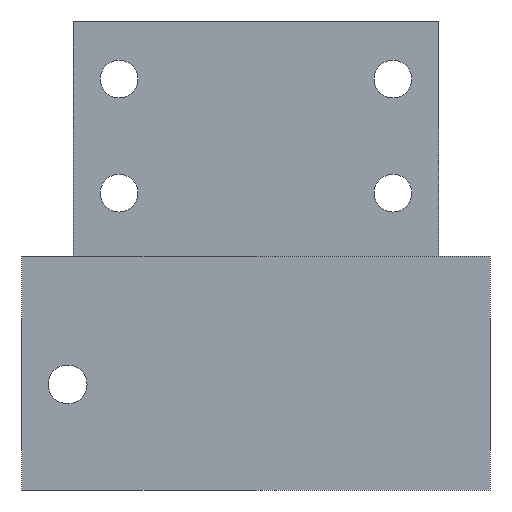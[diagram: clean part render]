
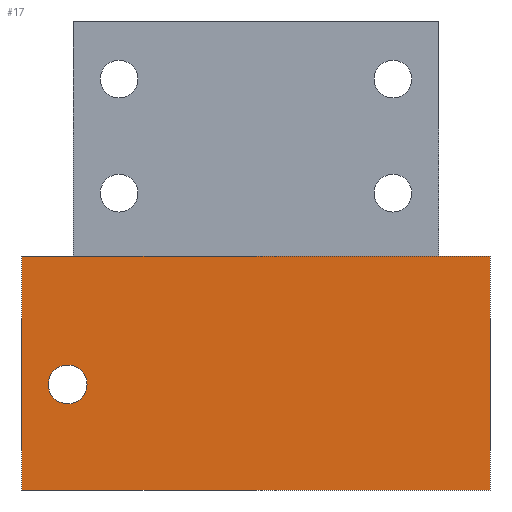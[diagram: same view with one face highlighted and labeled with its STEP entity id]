
A CAD part, left-side view. The second image highlights one B-rep face of the part: STEP entity #17.
In plain terms, the highlighted planar face has unit normal (-1, 0, 0).
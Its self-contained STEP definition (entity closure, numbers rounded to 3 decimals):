
#17 = ADVANCED_FACE('',(#18,#137),#32,.F.);
#18 = FACE_BOUND('',#19,.F.);
#19 = EDGE_LOOP('',(#20,#55,#83,#111));
#20 = ORIENTED_EDGE('',*,*,#21,.F.);
#21 = EDGE_CURVE('',#22,#24,#26,.T.);
#22 = VERTEX_POINT('',#23);
#23 = CARTESIAN_POINT('',(-24.,-20.5,-21.));
#24 = VERTEX_POINT('',#25);
#25 = CARTESIAN_POINT('',(-24.,-20.5,-0.5));
#26 = SURFACE_CURVE('',#27,(#31,#43),.PCURVE_S1.);
#27 = LINE('',#28,#29);
#28 = CARTESIAN_POINT('',(-24.,-20.5,-21.));
#29 = VECTOR('',#30,1.);
#30 = DIRECTION('',(0.,0.,1.));
#31 = PCURVE('',#32,#37);
#32 = PLANE('',#33);
#33 = AXIS2_PLACEMENT_3D('',#34,#35,#36);
#34 = CARTESIAN_POINT('',(-24.,-20.5,-21.));
#35 = DIRECTION('',(1.,0.,0.));
#36 = DIRECTION('',(0.,0.,1.));
#37 = DEFINITIONAL_REPRESENTATION('',(#38),#42);
#38 = LINE('',#39,#40);
#39 = CARTESIAN_POINT('',(0.,0.));
#40 = VECTOR('',#41,1.);
#41 = DIRECTION('',(1.,0.));
#42 = ( GEOMETRIC_REPRESENTATION_CONTEXT(2) 
PARAMETRIC_REPRESENTATION_CONTEXT() REPRESENTATION_CONTEXT('2D SPACE',''
  ) );
#43 = PCURVE('',#44,#49);
#44 = PLANE('',#45);
#45 = AXIS2_PLACEMENT_3D('',#46,#47,#48);
#46 = CARTESIAN_POINT('',(-24.,-20.5,-21.));
#47 = DIRECTION('',(0.,1.,0.));
#48 = DIRECTION('',(0.,0.,1.));
#49 = DEFINITIONAL_REPRESENTATION('',(#50),#54);
#50 = LINE('',#51,#52);
#51 = CARTESIAN_POINT('',(0.,0.));
#52 = VECTOR('',#53,1.);
#53 = DIRECTION('',(1.,0.));
#54 = ( GEOMETRIC_REPRESENTATION_CONTEXT(2) 
PARAMETRIC_REPRESENTATION_CONTEXT() REPRESENTATION_CONTEXT('2D SPACE',''
  ) );
#55 = ORIENTED_EDGE('',*,*,#56,.T.);
#56 = EDGE_CURVE('',#22,#57,#59,.T.);
#57 = VERTEX_POINT('',#58);
#58 = CARTESIAN_POINT('',(-24.,20.5,-21.));
#59 = SURFACE_CURVE('',#60,(#64,#71),.PCURVE_S1.);
#60 = LINE('',#61,#62);
#61 = CARTESIAN_POINT('',(-24.,-20.5,-21.));
#62 = VECTOR('',#63,1.);
#63 = DIRECTION('',(0.,1.,0.));
#64 = PCURVE('',#32,#65);
#65 = DEFINITIONAL_REPRESENTATION('',(#66),#70);
#66 = LINE('',#67,#68);
#67 = CARTESIAN_POINT('',(0.,0.));
#68 = VECTOR('',#69,1.);
#69 = DIRECTION('',(0.,-1.));
#70 = ( GEOMETRIC_REPRESENTATION_CONTEXT(2) 
PARAMETRIC_REPRESENTATION_CONTEXT() REPRESENTATION_CONTEXT('2D SPACE',''
  ) );
#71 = PCURVE('',#72,#77);
#72 = PLANE('',#73);
#73 = AXIS2_PLACEMENT_3D('',#74,#75,#76);
#74 = CARTESIAN_POINT('',(-24.,-20.5,-21.));
#75 = DIRECTION('',(0.,0.,1.));
#76 = DIRECTION('',(1.,0.,0.));
#77 = DEFINITIONAL_REPRESENTATION('',(#78),#82);
#78 = LINE('',#79,#80);
#79 = CARTESIAN_POINT('',(0.,0.));
#80 = VECTOR('',#81,1.);
#81 = DIRECTION('',(0.,1.));
#82 = ( GEOMETRIC_REPRESENTATION_CONTEXT(2) 
PARAMETRIC_REPRESENTATION_CONTEXT() REPRESENTATION_CONTEXT('2D SPACE',''
  ) );
#83 = ORIENTED_EDGE('',*,*,#84,.T.);
#84 = EDGE_CURVE('',#57,#85,#87,.T.);
#85 = VERTEX_POINT('',#86);
#86 = CARTESIAN_POINT('',(-24.,20.5,-0.5));
#87 = SURFACE_CURVE('',#88,(#92,#99),.PCURVE_S1.);
#88 = LINE('',#89,#90);
#89 = CARTESIAN_POINT('',(-24.,20.5,-21.));
#90 = VECTOR('',#91,1.);
#91 = DIRECTION('',(0.,0.,1.));
#92 = PCURVE('',#32,#93);
#93 = DEFINITIONAL_REPRESENTATION('',(#94),#98);
#94 = LINE('',#95,#96);
#95 = CARTESIAN_POINT('',(0.,-41.));
#96 = VECTOR('',#97,1.);
#97 = DIRECTION('',(1.,0.));
#98 = ( GEOMETRIC_REPRESENTATION_CONTEXT(2) 
PARAMETRIC_REPRESENTATION_CONTEXT() REPRESENTATION_CONTEXT('2D SPACE',''
  ) );
#99 = PCURVE('',#100,#105);
#100 = PLANE('',#101);
#101 = AXIS2_PLACEMENT_3D('',#102,#103,#104);
#102 = CARTESIAN_POINT('',(-24.,20.5,-21.));
#103 = DIRECTION('',(0.,1.,0.));
#104 = DIRECTION('',(0.,0.,1.));
#105 = DEFINITIONAL_REPRESENTATION('',(#106),#110);
#106 = LINE('',#107,#108);
#107 = CARTESIAN_POINT('',(0.,0.));
#108 = VECTOR('',#109,1.);
#109 = DIRECTION('',(1.,0.));
#110 = ( GEOMETRIC_REPRESENTATION_CONTEXT(2) 
PARAMETRIC_REPRESENTATION_CONTEXT() REPRESENTATION_CONTEXT('2D SPACE',''
  ) );
#111 = ORIENTED_EDGE('',*,*,#112,.F.);
#112 = EDGE_CURVE('',#24,#85,#113,.T.);
#113 = SURFACE_CURVE('',#114,(#118,#125),.PCURVE_S1.);
#114 = LINE('',#115,#116);
#115 = CARTESIAN_POINT('',(-24.,-20.5,-0.5));
#116 = VECTOR('',#117,1.);
#117 = DIRECTION('',(0.,1.,0.));
#118 = PCURVE('',#32,#119);
#119 = DEFINITIONAL_REPRESENTATION('',(#120),#124);
#120 = LINE('',#121,#122);
#121 = CARTESIAN_POINT('',(20.5,0.));
#122 = VECTOR('',#123,1.);
#123 = DIRECTION('',(0.,-1.));
#124 = ( GEOMETRIC_REPRESENTATION_CONTEXT(2) 
PARAMETRIC_REPRESENTATION_CONTEXT() REPRESENTATION_CONTEXT('2D SPACE',''
  ) );
#125 = PCURVE('',#126,#131);
#126 = PLANE('',#127);
#127 = AXIS2_PLACEMENT_3D('',#128,#129,#130);
#128 = CARTESIAN_POINT('',(-24.,-20.5,-0.5));
#129 = DIRECTION('',(0.,0.,1.));
#130 = DIRECTION('',(1.,0.,0.));
#131 = DEFINITIONAL_REPRESENTATION('',(#132),#136);
#132 = LINE('',#133,#134);
#133 = CARTESIAN_POINT('',(0.,0.));
#134 = VECTOR('',#135,1.);
#135 = DIRECTION('',(0.,1.));
#136 = ( GEOMETRIC_REPRESENTATION_CONTEXT(2) 
PARAMETRIC_REPRESENTATION_CONTEXT() REPRESENTATION_CONTEXT('2D SPACE',''
  ) );
#137 = FACE_BOUND('',#138,.F.);
#138 = EDGE_LOOP('',(#139));
#139 = ORIENTED_EDGE('',*,*,#140,.T.);
#140 = EDGE_CURVE('',#141,#141,#143,.T.);
#141 = VERTEX_POINT('',#142);
#142 = CARTESIAN_POINT('',(-24.,14.8,-11.75));
#143 = SURFACE_CURVE('',#144,(#149,#160),.PCURVE_S1.);
#144 = CIRCLE('',#145,1.7);
#145 = AXIS2_PLACEMENT_3D('',#146,#147,#148);
#146 = CARTESIAN_POINT('',(-24.,16.5,-11.75));
#147 = DIRECTION('',(-1.,-0.,0.));
#148 = DIRECTION('',(0.,-1.,0.));
#149 = PCURVE('',#32,#150);
#150 = DEFINITIONAL_REPRESENTATION('',(#151),#159);
#151 = ( BOUNDED_CURVE() B_SPLINE_CURVE(2,(#152,#153,#154,#155,#156,#157
,#158),.UNSPECIFIED.,.T.,.F.) B_SPLINE_CURVE_WITH_KNOTS((1,2,2,2,2,1),(
    -2.094,0.,2.094,4.189,6.283,
8.378),.UNSPECIFIED.) CURVE() GEOMETRIC_REPRESENTATION_ITEM() 
RATIONAL_B_SPLINE_CURVE((1.,0.5,1.,0.5,1.,0.5,1.)) REPRESENTATION_ITEM(
  '') );
#152 = CARTESIAN_POINT('',(9.25,-35.3));
#153 = CARTESIAN_POINT('',(12.194,-35.3));
#154 = CARTESIAN_POINT('',(10.722,-37.85));
#155 = CARTESIAN_POINT('',(9.25,-40.4));
#156 = CARTESIAN_POINT('',(7.778,-37.85));
#157 = CARTESIAN_POINT('',(6.306,-35.3));
#158 = CARTESIAN_POINT('',(9.25,-35.3));
#159 = ( GEOMETRIC_REPRESENTATION_CONTEXT(2) 
PARAMETRIC_REPRESENTATION_CONTEXT() REPRESENTATION_CONTEXT('2D SPACE',''
  ) );
#160 = PCURVE('',#161,#166);
#161 = CYLINDRICAL_SURFACE('',#162,1.7);
#162 = AXIS2_PLACEMENT_3D('',#163,#164,#165);
#163 = CARTESIAN_POINT('',(-25.,16.5,-11.75));
#164 = DIRECTION('',(-1.,-0.,-0.));
#165 = DIRECTION('',(0.,-1.,0.));
#166 = DEFINITIONAL_REPRESENTATION('',(#167),#171);
#167 = LINE('',#168,#169);
#168 = CARTESIAN_POINT('',(-6.283,-1.));
#169 = VECTOR('',#170,1.);
#170 = DIRECTION('',(1.,-0.));
#171 = ( GEOMETRIC_REPRESENTATION_CONTEXT(2) 
PARAMETRIC_REPRESENTATION_CONTEXT() REPRESENTATION_CONTEXT('2D SPACE',''
  ) );
